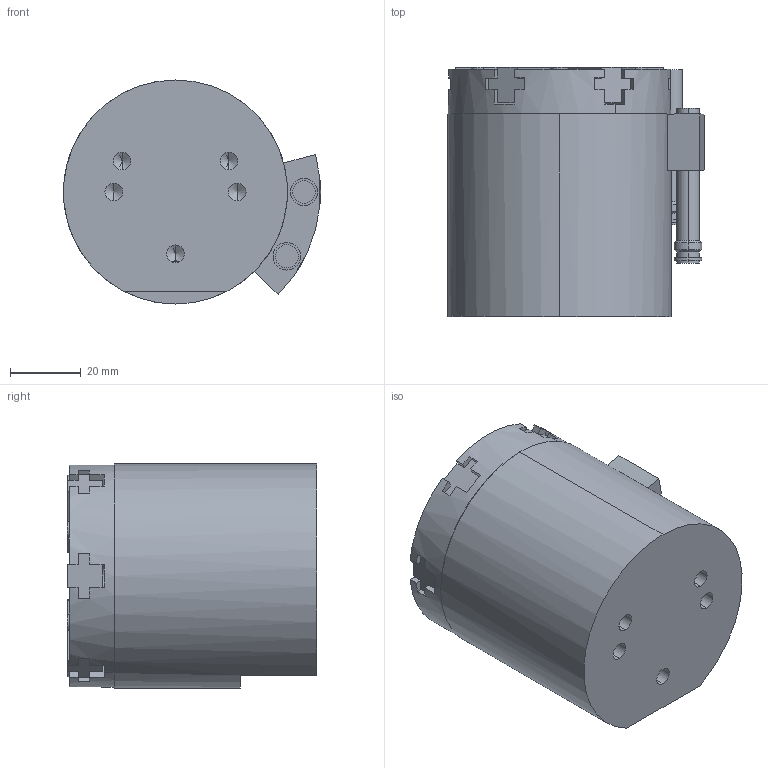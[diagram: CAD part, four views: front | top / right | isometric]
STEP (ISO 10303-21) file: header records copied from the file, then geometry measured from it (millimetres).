
FILE_DESCRIPTION (( 'STEP AP203' ), '1' );
FILE_NAME ('AGP-6-OR CLOSED in IN.STEP', '2015-06-01T14:20:49', ( 'setup' ), ( '' ), 'SwSTEP 2.0', 'SolidWorks 2013', '' );
FILE_SCHEMA (( 'CONFIG_CONTROL_DESIGN' ));
Length unit declared in the file: inch
Products named in the file (8): AGP-6-OR SENSOR BLOCK; AGP-6-OR SENSOR; AGP-6-OR RAIL; AGP-6-OR  NUT_91841A011; AGP-6-OR  JAW; AGP-6-OR CLOSED in IN; AGP-6-OR  BODY; AGP-6-OR CAP
Assembly tree (18 placements, depth 2):
  AGP-6-OR CLOSED in IN
    AGP-6-OR  BODY
    AGP-6-OR CAP
    AGP-6-OR SENSOR BLOCK
    AGP-6-OR SENSOR  x2
    AGP-6-OR RAIL  x6
    AGP-6-OR  NUT_91841A011
    AGP-6-OR  JAW  x6
Bounding box: 72.87 x 70.61 x 63.5 mm (x, y, z)
Volume: 219532.5 mm3; surface area: 49848.6 mm2
Topology: 18 solids, 18 shells, 609 faces, 1511 edges, 900 vertices
Faces by surface type: plane 237, cylinder 203, cone 165, torus 4
Entity records: 10414 total; most frequent: CARTESIAN_POINT 1882, DIRECTION 1590, ORIENTED_EDGE 1512, EDGE_CURVE 756, AXIS2_PLACEMENT_3D 573, VERTEX_POINT 475, LINE 444, VECTOR 444
